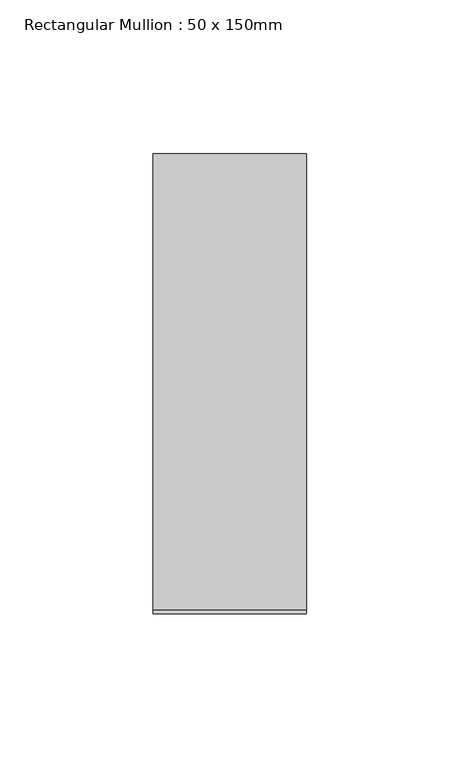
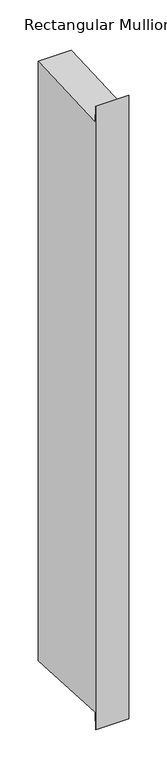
"""IFC4 building model written with IfcOpenShell, lengths in millimetres: member geometry, Rectangular Mullion : 50 x 150mm."""

from ifc_helpers import new_model, si_unit, frame, origin, place, context, project, spatial, polyline, outline, extrude, source, transform, mapped, element, save


def rectangular_mullion_50_x_150mm_a54f4cf2(model_context):
    return source(origin(), model_context, "Body", "SweptSolid", [
        extrude(outline(polyline([(-75.0, 23.1238267), (-73.6561913, -3.7187304), (75.0, 3.7233876), (75.0, -953.7233876), (-73.6561913, -946.2812696), (-75.0, -973.1238267), (-75.0, 23.1238267)])), frame((-50.0, 0.0, 0.0), z_axis=(1.0, 0.0, 0.0), x_axis=(0.0, 1.0, 0.0)), (0.0, 0.0, 1.0), 50.0),
    ])


if __name__ == "__main__":
    model = new_model("IFC4")
    model_context = context("Model", 3, world=origin())
    ifc_project = project(units=[si_unit("LENGTHUNIT", "METRE", prefix="MILLI")], contexts=[model_context])
    site = spatial("IfcSite", under=ifc_project)
    building = spatial("IfcBuilding", under=site)
    placement = place(None, origin())
    rectangular_mullion_50_x_150mm_shape = rectangular_mullion_50_x_150mm_a54f4cf2(model_context)
    element("IfcMember", 1, ObjectType="Rectangular Mullion : 50 x 150mm", at=placement, inside=building, context=model_context, shape_type="MappedRepresentation", body=[
        mapped(rectangular_mullion_50_x_150mm_shape, transform((0.0, 0.0, 0.0), x_axis=(1.0, 0.0, 0.0), y_axis=(0.0, 1.0, 0.0), z_axis=(0.0, 0.0, 1.0))),
    ])
    save(model, "model.ifc")
